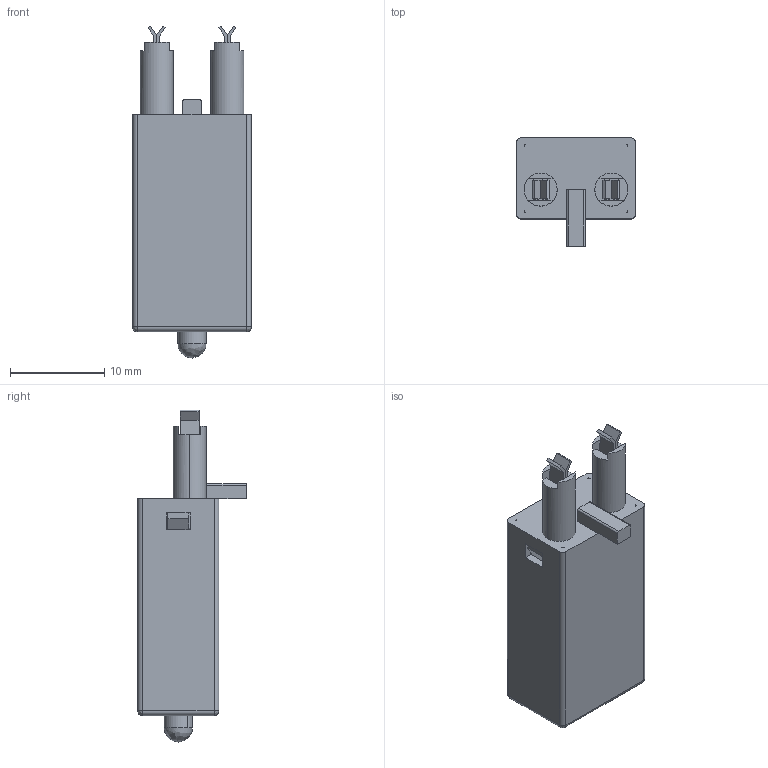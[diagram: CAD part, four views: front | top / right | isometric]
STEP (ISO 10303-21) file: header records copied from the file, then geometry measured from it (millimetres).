
FILE_DESCRIPTION (( 'STEP AP203' ), '1' );
FILE_NAME ('AMD耀輸 俋倛芞.STEP', '2019-05-07T07:24:06', ( 'shenler' ), ( 'Microsoft' ), 'SwSTEP 2.0', 'SolidWorks 2017', '' );
FILE_SCHEMA (( 'CONFIG_CONTROL_DESIGN' ));
Length unit declared in the file: millimetre
Products named in the file (1): AMD耀輸 俋倛芞
Bounding box: 12.6 x 11.5 x 35.19 mm (x, y, z)
Volume: 1092.3 mm3; surface area: 2749.3 mm2
Topology: 1 solids, 2 shells, 261 faces, 738 edges, 478 vertices
Faces by surface type: plane 194, cylinder 60, bspline 5, cone 2
Entity records: 8494 total; most frequent: CARTESIAN_POINT 1667, ORIENTED_EDGE 1464, DIRECTION 1328, EDGE_CURVE 732, LINE 586, VECTOR 586, VERTEX_POINT 478, AXIS2_PLACEMENT_3D 371
